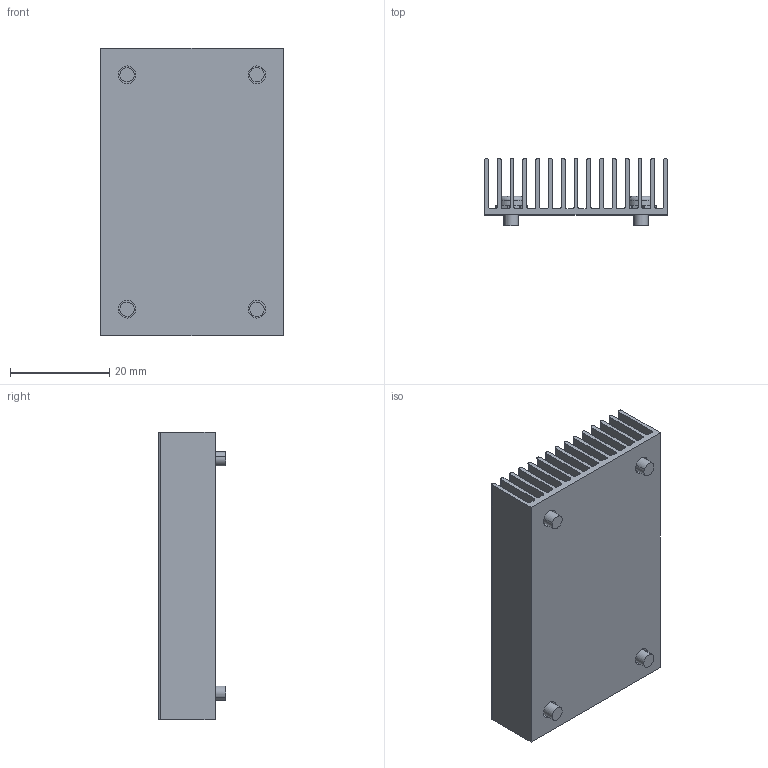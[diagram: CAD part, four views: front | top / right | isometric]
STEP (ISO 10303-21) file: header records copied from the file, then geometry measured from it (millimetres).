
FILE_DESCRIPTION (( 'STEP AP214' ), '1' );
FILE_NAME ('HS1568EBK04.STEP', '2023-03-03T15:51:51', ( '' ), ( '' ), 'SwSTEP 2.0', 'SolidWorks 2020', '' );
FILE_SCHEMA (( 'AUTOMOTIVE_DESIGN' ));
Length unit declared in the file: millimetre
Products named in the file (1): HS1568EBK04
Bounding box: 36.83 x 13.53 x 57.91 mm (x, y, z)
Volume: 9204.5 mm3; surface area: 21482.8 mm2
Topology: 5 solids, 5 shells, 534 faces, 1400 edges, 888 vertices
Faces by surface type: plane 371, cylinder 155, torus 8
Entity records: 23980 total; most frequent: CARTESIAN_POINT 4789, ORIENTED_EDGE 2800, DIRECTION 2700, EDGE_CURVE 1400, LINE 1026, VECTOR 1026, VERTEX_POINT 888, AXIS2_PLACEMENT_3D 837
